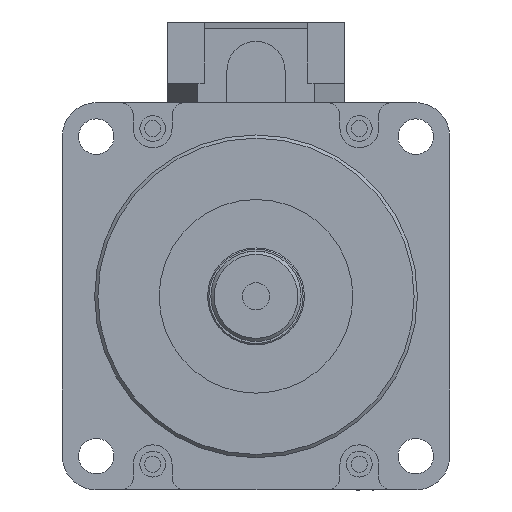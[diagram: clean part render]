
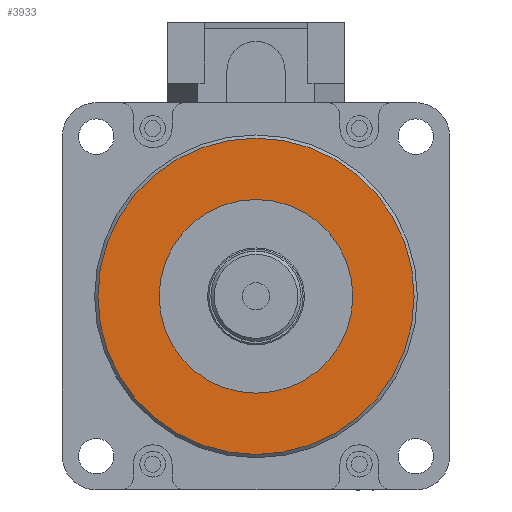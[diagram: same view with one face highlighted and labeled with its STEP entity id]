
A CAD part, left-side view. The second image highlights one B-rep face of the part: STEP entity #3933.
In plain terms, the highlighted planar face has unit normal (-1, 0, 0).
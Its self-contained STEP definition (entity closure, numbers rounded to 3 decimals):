
#597 = EDGE_LOOP ( 'NONE', ( #2078 ) ) ;
#616 = EDGE_LOOP ( 'NONE', ( #2102 ) ) ;
#909 = CARTESIAN_POINT ( 'NONE',  ( 27., 0., 15. ) ) ;
#947 = CARTESIAN_POINT ( 'NONE',  ( 27., 0., 24.5 ) ) ;
#1877 = DIRECTION ( 'NONE',  ( 0., 0., 1. ) ) ;
#1886 = DIRECTION ( 'NONE',  ( -1., 0., 0. ) ) ;
#1892 = CARTESIAN_POINT ( 'NONE',  ( 27., 0., 0. ) ) ;
#1943 = DIRECTION ( 'NONE',  ( 0., 0., 1. ) ) ;
#1951 = DIRECTION ( 'NONE',  ( -1., 0., 0. ) ) ;
#1953 = CARTESIAN_POINT ( 'NONE',  ( 27., 0., 0. ) ) ;
#2078 = ORIENTED_EDGE ( 'NONE', *, *, #7873, .F. ) ;
#2102 = ORIENTED_EDGE ( 'NONE', *, *, #7863, .T. ) ;
#2495 = AXIS2_PLACEMENT_3D ( 'NONE', #1892, #1886, #1877 ) ;
#2504 = AXIS2_PLACEMENT_3D ( 'NONE', #1953, #1951, #1943 ) ;
#3933 = ADVANCED_FACE ( 'NONE', ( #4639, #4631 ), #4642, .T. ) ;
#4474 = AXIS2_PLACEMENT_3D ( 'NONE', #4600, #4582, #4573 ) ;
#4573 = DIRECTION ( 'NONE',  ( 0., 0., 1. ) ) ;
#4582 = DIRECTION ( 'NONE',  ( -1., 0., 0. ) ) ;
#4600 = CARTESIAN_POINT ( 'NONE',  ( 27., 0., 0. ) ) ;
#4631 = FACE_OUTER_BOUND ( 'NONE', #616, .T. ) ;
#4639 = FACE_BOUND ( 'NONE', #597, .T. ) ;
#4642 = PLANE ( 'NONE',  #4474 ) ;
#5140 = VERTEX_POINT ( 'NONE', #909 ) ;
#5148 = VERTEX_POINT ( 'NONE', #947 ) ;
#7813 = CIRCLE ( 'NONE', #2495, 15. ) ;
#7863 = EDGE_CURVE ( 'NONE', #5148, #5148, #7874, .T. ) ;
#7873 = EDGE_CURVE ( 'NONE', #5140, #5140, #7813, .T. ) ;
#7874 = CIRCLE ( 'NONE', #2504, 24.5 ) ;
